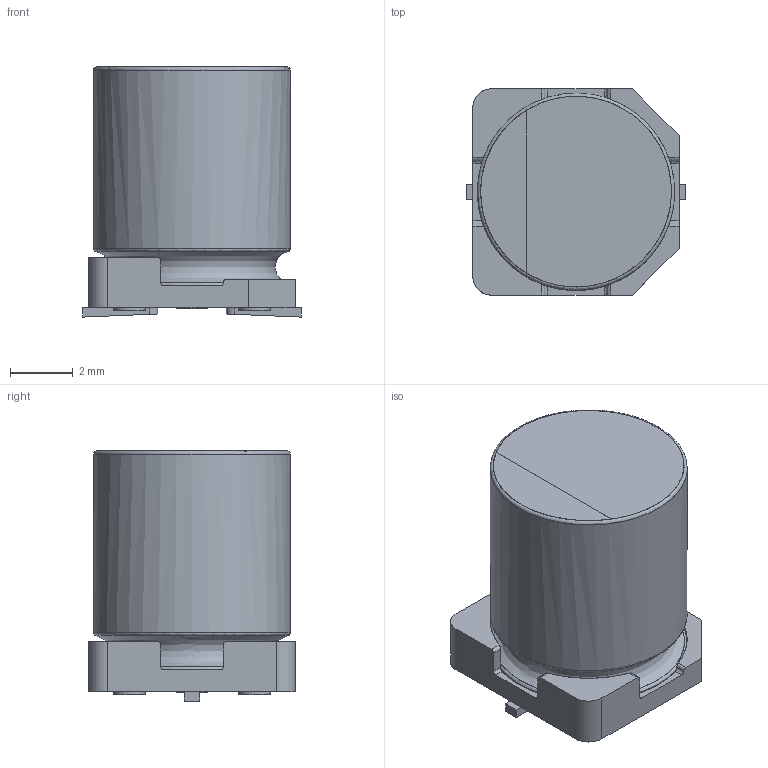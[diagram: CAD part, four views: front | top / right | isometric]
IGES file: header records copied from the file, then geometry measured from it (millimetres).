
Start section: JAMA-IS VERSION  1.0
Bounding box: 7 x 6.6 x 8 mm (x, y, z)
Surface area: 342.9 mm2 (no closed solid volume)
Topology: 0 solids, 0 shells, 74 faces, 994 edges, 976 vertices
Faces by surface type: bspline 74
